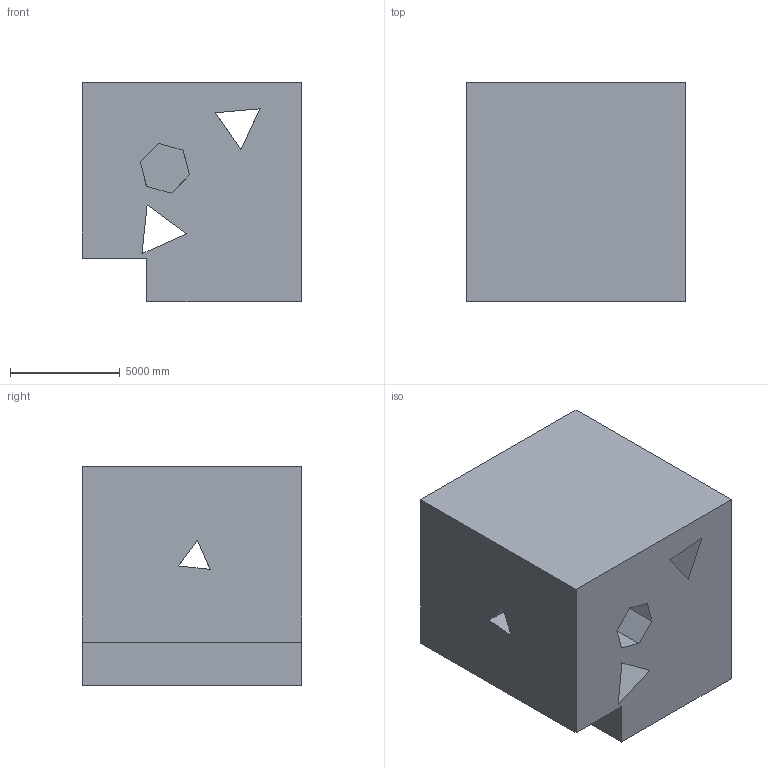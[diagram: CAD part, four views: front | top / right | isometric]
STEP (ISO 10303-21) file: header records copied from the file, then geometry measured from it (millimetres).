
FILE_DESCRIPTION (( 'STEP AP203' ), '1' );
FILE_NAME ('593.STEP', '2022-07-29T11:59:21', ( 'user' ), ( '' ), 'SwSTEP 2.0', 'SolidWorks 2021', '' );
FILE_SCHEMA (( 'CONFIG_CONTROL_DESIGN' ));
Length unit declared in the file: centimetre
Products named in the file (1): 593
Bounding box: 10000 x 10000 x 10000 mm (x, y, z)
Volume: 846724013163.2 mm3; surface area: 834473121.9 mm2
Topology: 1 solids, 1 shells, 35 faces, 102 edges, 68 vertices
Faces by surface type: plane 31, cylinder 4
Entity records: 1241 total; most frequent: CARTESIAN_POINT 230, ORIENTED_EDGE 204, DIRECTION 174, EDGE_CURVE 102, VECTOR 86, LINE 86, VERTEX_POINT 68, EDGE_LOOP 44
